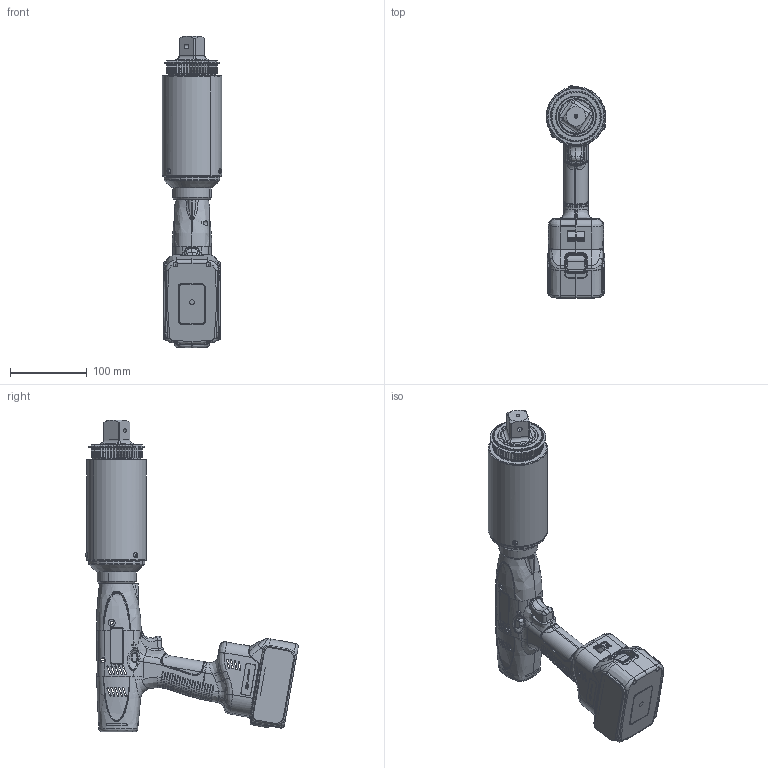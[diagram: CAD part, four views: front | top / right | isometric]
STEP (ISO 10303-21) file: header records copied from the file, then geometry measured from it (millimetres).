
FILE_DESCRIPTION (( 'STEP AP214' ), '1' );
FILE_NAME ('ABP-CTA1800W, 3000W.STEP', '2022-08-19T16:27:33', ( '' ), ( '' ), 'SwSTEP 2.0', 'SolidWorks 2022', '' );
FILE_SCHEMA (( 'AUTOMOTIVE_DESIGN' ));
Length unit declared in the file: inch
Products named in the file (1): ABP-CTA1800W, 3000W
Bounding box: 77.46 x 276.63 x 405.6 mm (x, y, z)
Surface area: 249768.3 mm2 (no closed solid volume)
Topology: 0 solids, 99 shells, 1660 faces, 7196 edges, 5407 vertices
Faces by surface type: bspline 599, cylinder 403, plane 381, cone 203, torus 72, sphere 2
Entity records: 205456 total; most frequent: CARTESIAN_POINT 135524, ORIENTED_EDGE 10495, EDGE_CURVE 7191, DIRECTION 7077, VERTEX_POINT 5407, B_SPLINE_CURVE_WITH_KNOTS 3368, AXIS2_PLACEMENT_3D 2402, LINE 2273
